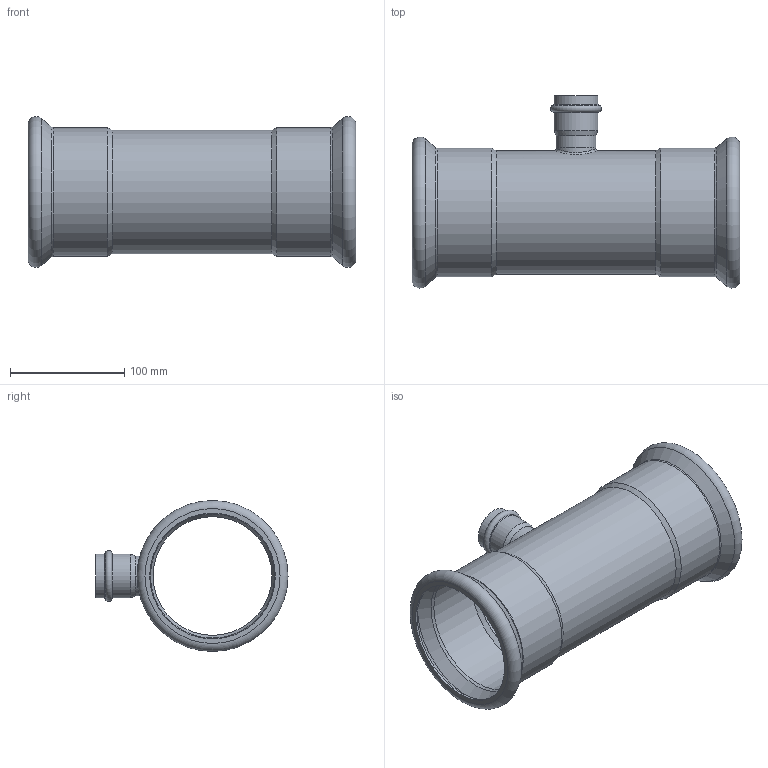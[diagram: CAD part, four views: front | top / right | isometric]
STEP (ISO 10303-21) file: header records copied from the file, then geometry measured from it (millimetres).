
FILE_DESCRIPTION((''),'2;1');
FILE_NAME('G:\Nirosan-Schmiedefeld\Technics\CAD\Bauteile VA\108\6913010835108(2).stp','2009-05-08T09:42:11',('herberg'),(''),'Autodesk Inventor 2009','Autodesk Inventor 2009','');
FILE_SCHEMA(('AUTOMOTIVE_DESIGN { 1 0 10303 214 1 1 1 1 }'));
Length unit declared in the file: millimetre
Products named in the file (3): 6913010835108(2); LM_6913010835108(0); 6924335HM(1)
Assembly tree (2 placements, depth 2):
  6913010835108(2)
    LM_6913010835108(0)
    6924335HM(1)
Bounding box: 287 x 168.1 x 132.2 mm (x, y, z)
Volume: 221709.7 mm3; surface area: 226405.7 mm2
Topology: 2 solids, 2 shells, 51 faces, 103 edges, 58 vertices
Faces by surface type: cylinder 16, cone 12, bspline 9, plane 7, torus 7
Full cylindrical faces by diameter (mm): 31 x1, 32 x1, 35 x2, 35.25 x2, 38.25 x2, 104 x1, 108 x1, 108.7 x2, 110 x2, 112.7 x2
Entity records: 3068 total; most frequent: CARTESIAN_POINT 2132, DIRECTION 192, ORIENTED_EDGE 108, EDGE_LOOP 102, AXIS2_PLACEMENT_3D 96, EDGE_CURVE 54, VERTEX_POINT 52, FACE_OUTER_BOUND 51
